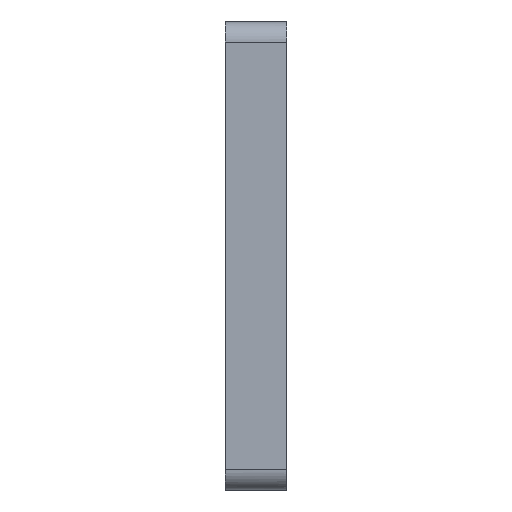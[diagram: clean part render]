
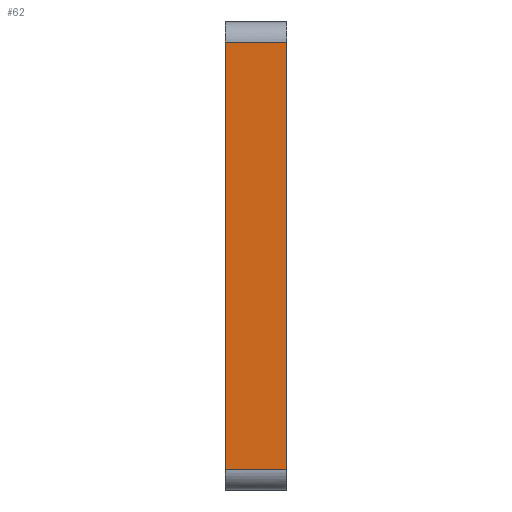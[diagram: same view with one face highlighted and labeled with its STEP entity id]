
A CAD part, left-side view. The second image highlights one B-rep face of the part: STEP entity #62.
In plain terms, the highlighted planar face has unit normal (-1, 0, 0).
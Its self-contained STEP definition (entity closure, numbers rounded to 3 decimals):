
#62=ADVANCED_FACE('',(#106),#1674,.T.);
#106=FACE_OUTER_BOUND('',#150,.T.);
#150=EDGE_LOOP('',(#300,#301,#302,#303));
#300=ORIENTED_EDGE('',*,*,#1313,.T.);
#301=ORIENTED_EDGE('',*,*,#1314,.T.);
#302=ORIENTED_EDGE('',*,*,#1315,.T.);
#303=ORIENTED_EDGE('',*,*,#1311,.F.);
#495=(
BOUNDED_CURVE()
B_SPLINE_CURVE(1,(#2628,#2629),.UNSPECIFIED.,.F.,.F.)
B_SPLINE_CURVE_WITH_KNOTS((2,2),(0.,3.),.UNSPECIFIED.)
CURVE()
GEOMETRIC_REPRESENTATION_ITEM()
RATIONAL_B_SPLINE_CURVE((1.,1.))
REPRESENTATION_ITEM('')
);
#713=PCURVE('',#1660,#965);
#716=PCURVE('',#1674,#968);
#717=PCURVE('',#1674,#969);
#718=PCURVE('',#1674,#970);
#719=PCURVE('',#1674,#971);
#723=PCURVE('',#1661,#975);
#743=PCURVE('',#1676,#995);
#816=PCURVE('',#1677,#1068);
#965=DEFINITIONAL_REPRESENTATION('',(#1491),#3048);
#968=DEFINITIONAL_REPRESENTATION('',(#1495),#3048);
#969=DEFINITIONAL_REPRESENTATION('',(#1497),#3048);
#970=DEFINITIONAL_REPRESENTATION('',(#1499),#3048);
#971=DEFINITIONAL_REPRESENTATION('',(#1500),#3048);
#975=DEFINITIONAL_REPRESENTATION('',(#1504),#3048);
#995=DEFINITIONAL_REPRESENTATION('',(#1525),#3048);
#1068=DEFINITIONAL_REPRESENTATION('',(#1540),#3048);
#1185=SURFACE_CURVE('',#495,(#713,#719),.PCURVE_S1.);
#1187=SURFACE_CURVE('',#1494,(#716,#743),.PCURVE_S1.);
#1188=SURFACE_CURVE('',#1496,(#717,#723),.PCURVE_S1.);
#1189=SURFACE_CURVE('',#1498,(#718,#816),.PCURVE_S1.);
#1311=EDGE_CURVE('',#1618,#1619,#1185,.T.);
#1313=EDGE_CURVE('',#1618,#1620,#1187,.T.);
#1314=EDGE_CURVE('',#1620,#1621,#1188,.T.);
#1315=EDGE_CURVE('',#1621,#1619,#1189,.T.);
#1491=B_SPLINE_CURVE_WITH_KNOTS('',1,(#2630,#2631),.UNSPECIFIED.,.F.,.F.,
(2,2),(0.,3.),.UNSPECIFIED.);
#1494=B_SPLINE_CURVE_WITH_KNOTS('',1,(#2639,#2640),.UNSPECIFIED.,.F.,.F.,
(2,2),(-100.571,-79.571),.UNSPECIFIED.);
#1495=B_SPLINE_CURVE_WITH_KNOTS('',1,(#2641,#2642),.UNSPECIFIED.,.F.,.F.,
(2,2),(-100.571,-79.571),.UNSPECIFIED.);
#1496=B_SPLINE_CURVE_WITH_KNOTS('',1,(#2643,#2644),.UNSPECIFIED.,.F.,.F.,
(2,2),(0.,3.),.UNSPECIFIED.);
#1497=B_SPLINE_CURVE_WITH_KNOTS('',1,(#2645,#2646),.UNSPECIFIED.,.F.,.F.,
(2,2),(0.,3.),.UNSPECIFIED.);
#1498=B_SPLINE_CURVE_WITH_KNOTS('',1,(#2647,#2648),.UNSPECIFIED.,.F.,.F.,
(2,2),(79.571,100.571),.UNSPECIFIED.);
#1499=B_SPLINE_CURVE_WITH_KNOTS('',1,(#2649,#2650),.UNSPECIFIED.,.F.,.F.,
(2,2),(79.571,100.571),.UNSPECIFIED.);
#1500=B_SPLINE_CURVE_WITH_KNOTS('',1,(#2651,#2652),.UNSPECIFIED.,.F.,.F.,
(2,2),(0.,3.),.UNSPECIFIED.);
#1504=B_SPLINE_CURVE_WITH_KNOTS('',1,(#2667,#2668),.UNSPECIFIED.,.F.,.F.,
(2,2),(0.,3.),.UNSPECIFIED.);
#1525=B_SPLINE_CURVE_WITH_KNOTS('',1,(#2749,#2750),.UNSPECIFIED.,.F.,.F.,
(2,2),(-100.571,-79.571),.UNSPECIFIED.);
#1540=B_SPLINE_CURVE_WITH_KNOTS('',1,(#2991,#2992),.UNSPECIFIED.,.F.,.F.,
(2,2),(79.571,100.571),.UNSPECIFIED.);
#1618=VERTEX_POINT('',#2071);
#1619=VERTEX_POINT('',#2072);
#1620=VERTEX_POINT('',#2073);
#1621=VERTEX_POINT('',#2074);
#1660=(
BOUNDED_SURFACE()
B_SPLINE_SURFACE(2,1,((#1909,#1910),(#1911,#1912),(#1913,#1914)),
 .UNSPECIFIED.,.F.,.F.,.F.)
B_SPLINE_SURFACE_WITH_KNOTS((3,3),(2,2),(-102.142,-100.571),
(0.,3.),.UNSPECIFIED.)
GEOMETRIC_REPRESENTATION_ITEM()
RATIONAL_B_SPLINE_SURFACE(((1.,1.),(0.707,0.707),
(1.,1.)))
REPRESENTATION_ITEM('')
SURFACE()
);
#1661=(
BOUNDED_SURFACE()
B_SPLINE_SURFACE(2,1,((#1916,#1917),(#1918,#1919),(#1920,#1921)),
 .UNSPECIFIED.,.F.,.F.,.F.)
B_SPLINE_SURFACE_WITH_KNOTS((3,3),(2,2),(-79.571,-78.),
(0.,3.),.UNSPECIFIED.)
GEOMETRIC_REPRESENTATION_ITEM()
RATIONAL_B_SPLINE_SURFACE(((1.,1.),(0.707,0.707),
(1.,1.)))
REPRESENTATION_ITEM('')
SURFACE()
);
#1674=PLANE('',#1705);
#1676=PLANE('',#1707);
#1677=PLANE('',#1708);
#1705=AXIS2_PLACEMENT_3D('',#1915,#1719,$);
#1707=AXIS2_PLACEMENT_3D('',#1965,#1721,$);
#1708=AXIS2_PLACEMENT_3D('',#1966,#1722,$);
#1719=DIRECTION('',(-1.,0.,0.));
#1721=DIRECTION('',(0.,-1.,0.));
#1722=DIRECTION('',(0.,1.,0.));
#1909=CARTESIAN_POINT('',(715.,319.,-153.));
#1910=CARTESIAN_POINT('',(715.,322.,-153.));
#1911=CARTESIAN_POINT('',(714.,319.,-153.));
#1912=CARTESIAN_POINT('',(714.,322.,-153.));
#1913=CARTESIAN_POINT('',(714.,319.,-152.));
#1914=CARTESIAN_POINT('',(714.,322.,-152.));
#1915=CARTESIAN_POINT('',(714.,319.,-152.));
#1916=CARTESIAN_POINT('',(714.,319.,-131.));
#1917=CARTESIAN_POINT('',(714.,322.,-131.));
#1918=CARTESIAN_POINT('',(714.,319.,-130.));
#1919=CARTESIAN_POINT('',(714.,322.,-130.));
#1920=CARTESIAN_POINT('',(715.,319.,-130.));
#1921=CARTESIAN_POINT('',(715.,322.,-130.));
#1965=CARTESIAN_POINT('',(804.,319.,-155.875));
#1966=CARTESIAN_POINT('',(804.,322.,-155.875));
#2071=CARTESIAN_POINT('',(714.,319.,-152.));
#2072=CARTESIAN_POINT('',(714.,322.,-152.));
#2073=CARTESIAN_POINT('',(714.,319.,-131.));
#2074=CARTESIAN_POINT('',(714.,322.,-131.));
#2628=CARTESIAN_POINT('',(714.,319.,-152.));
#2629=CARTESIAN_POINT('',(714.,322.,-152.));
#2630=CARTESIAN_POINT('',(-100.571,0.));
#2631=CARTESIAN_POINT('',(-100.571,3.));
#2639=CARTESIAN_POINT('',(714.,319.,-152.));
#2640=CARTESIAN_POINT('',(714.,319.,-131.));
#2641=CARTESIAN_POINT('',(-100.571,0.));
#2642=CARTESIAN_POINT('',(-79.571,0.));
#2643=CARTESIAN_POINT('',(714.,319.,-131.));
#2644=CARTESIAN_POINT('',(714.,322.,-131.));
#2645=CARTESIAN_POINT('',(-79.571,0.));
#2646=CARTESIAN_POINT('',(-79.571,3.));
#2647=CARTESIAN_POINT('',(714.,322.,-131.));
#2648=CARTESIAN_POINT('',(714.,322.,-152.));
#2649=CARTESIAN_POINT('',(-79.571,3.));
#2650=CARTESIAN_POINT('',(-100.571,3.));
#2651=CARTESIAN_POINT('',(-100.571,0.));
#2652=CARTESIAN_POINT('',(-100.571,3.));
#2667=CARTESIAN_POINT('',(-79.571,0.));
#2668=CARTESIAN_POINT('',(-79.571,3.));
#2749=CARTESIAN_POINT('',(-10.,75.1));
#2750=CARTESIAN_POINT('',(11.,75.1));
#2991=CARTESIAN_POINT('',(75.1,11.));
#2992=CARTESIAN_POINT('',(75.1,-10.));
#3048=(
GEOMETRIC_REPRESENTATION_CONTEXT(2)
PARAMETRIC_REPRESENTATION_CONTEXT()
REPRESENTATION_CONTEXT('pspace','')
);
